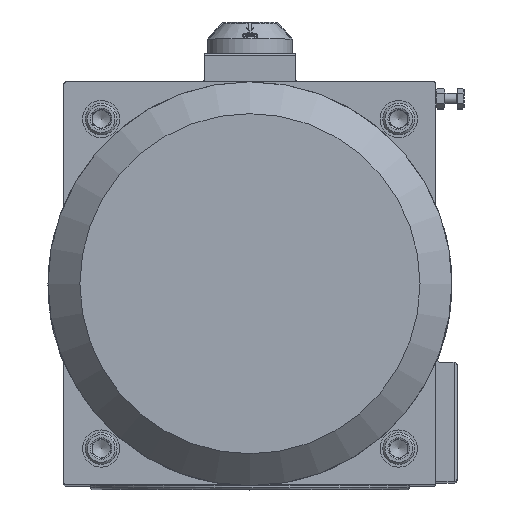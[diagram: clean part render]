
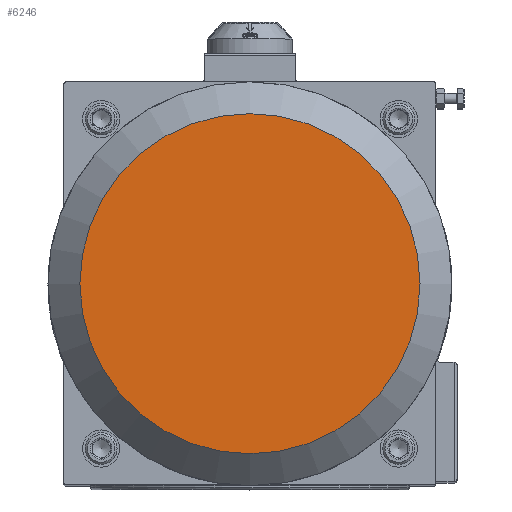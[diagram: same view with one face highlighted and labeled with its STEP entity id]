
A CAD part, top view. The second image highlights one B-rep face of the part: STEP entity #6246.
In plain terms, the highlighted planar face has unit normal (0, 0, 1).
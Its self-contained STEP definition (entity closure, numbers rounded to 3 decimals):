
#6246=ADVANCED_FACE('',(#14015),#14017,.T.);
#14015=FACE_BOUND('',#14016,.T.);
#14016=EDGE_LOOP('',(#21134));
#14017=PLANE('',#14018);
#14018=AXIS2_PLACEMENT_3D('',#14019,#14020,#14021);
#14019=CARTESIAN_POINT('',(0.,0.,460.));
#14020=DIRECTION('',(0.,0.,1.));
#14021=DIRECTION('',(1.,0.,0.));
#21134=ORIENTED_EDGE('',*,*,#24510,.T.);
#24510=EDGE_CURVE('',#28256,#28256,#28257,.T.);
#28256=VERTEX_POINT('',#51125);
#28257=CIRCLE('',#51126,160.);
#51125=CARTESIAN_POINT('',(160.,0.,460.));
#51126=AXIS2_PLACEMENT_3D('',#51127,#51128,#51129);
#51127=CARTESIAN_POINT('',(0.,0.,460.));
#51128=DIRECTION('',(0.,0.,1.));
#51129=DIRECTION('',(1.,0.,0.));
